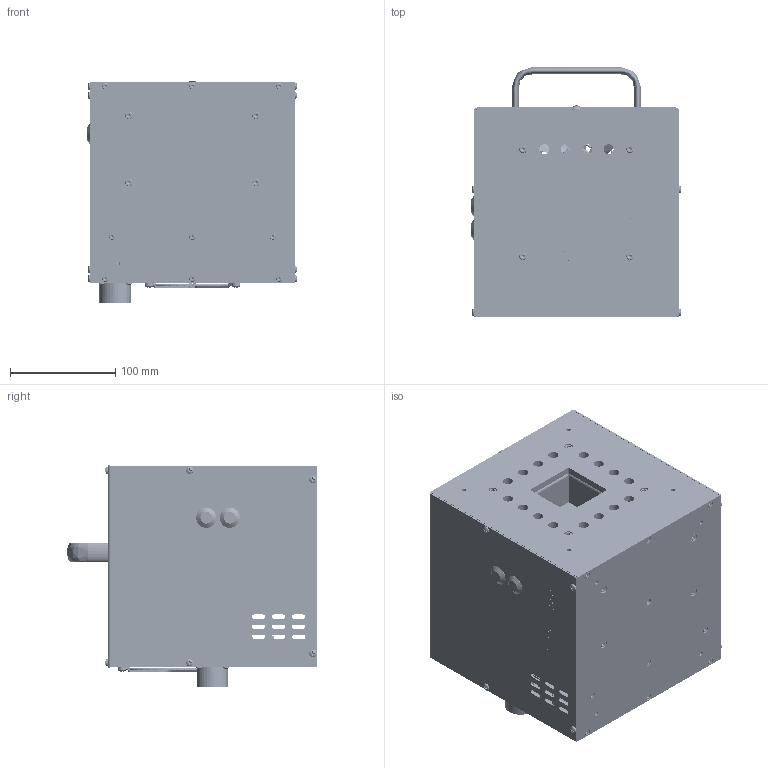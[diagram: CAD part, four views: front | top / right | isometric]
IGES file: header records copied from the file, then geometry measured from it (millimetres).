
Start section: SolidWorks IGES file using analytic representation for surfaces
Bounding box: 199.81 x 236.89 x 211.1 mm (x, y, z)
Surface area: 565154.6 mm2 (no closed solid volume)
Topology: 0 solids, 0 shells, 3760 faces, 42439 edges, 42395 vertices
Faces by surface type: bspline 2843, revolution 917
